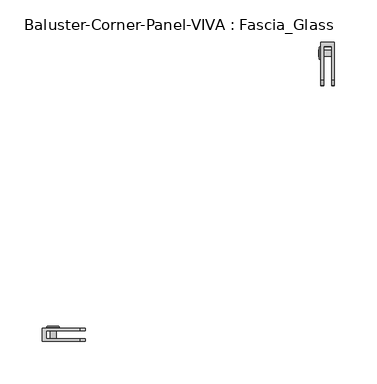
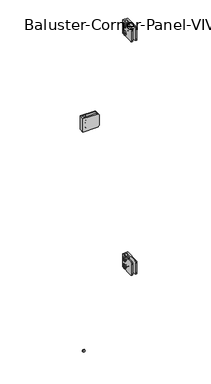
"""IFC4 building model written with IfcOpenShell, lengths in millimetres: railing geometry, Baluster-Corner-Panel-VIVA : Fascia_Glass."""

from ifc_helpers import new_model, si_unit, point, frame, origin, place, context, project, spatial, polyline, circle_curve, ellipse_curve, trimmed, outline, extrude, source, transform, mapped, element, save
from ifc_brep_helpers import plane_surface, cylinder_surface, revolved_surface, advanced_brep


def baluster_corner_panel_viva_fascia_glass_540a4684(model_context):
    return source(origin(), model_context, "Body", "SolidModel", [
        extrude(outline(polyline([(304.2341927, 917.178125), (302.1872286, 913.6326791), (298.0933003, 913.6326791), (296.0463361, 917.178125), (298.0933003, 920.7235709), (302.1872286, 920.7235709), (304.2341927, 917.178125)])), frame((21.7024185, 0.0, 0.0), z_axis=(1.0, 0.0, 0.0), x_axis=(0.0, 1.0, 0.0)), (0.0, 0.0, 1.0), 1.4969696),
        advanced_brep(
        [(36.7665, 303.6857103, 917.178125), (36.7665, 296.5948185, 917.178125), (24.0665, 296.5948185, 917.178125), (24.0665, 303.6857103, 917.178125), (24.0665, 292.7324753, 917.178125), (24.0665, 307.5480535, 917.178125), (23.199388, 301.7963398, 917.178125), (23.199388, 298.484189, 917.178125), (36.7665, 298.484189, 917.178125), (36.7665, 301.7963398, 917.178125), (23.2316551, 307.5480535, 917.178125), (23.2316551, 292.7324753, 917.178125), (21.9503831, 294.0137474, 917.178125), (21.9503831, 306.2667815, 917.178125), (21.9503831, 295.8416689, 917.178125), (21.9503831, 304.43886, 917.178125), (23.199388, 295.8416689, 917.178125), (23.199388, 304.43886, 917.178125)],
        [
            (0, 1, circle_curve(frame((36.7665, 300.1402644, 917.178125), z_axis=(-1.0, 0.0, 0.0), x_axis=(0.0, -1.0, 0.0)), 3.5454459)),
            (1, 2),
            (2, 3, circle_curve(frame((24.0665, 300.1402644, 917.178125), z_axis=(1.0, 0.0, 0.0), x_axis=(0.0, -1.0, 0.0)), 3.5454459)),
            (3, 0),
            (1, 0, circle_curve(frame((36.7665, 300.1402644, 917.178125), z_axis=(-1.0, 0.0, 0.0), x_axis=(0.0, -1.0, 0.0)), 3.5454459)),
            (3, 2, circle_curve(frame((24.0665, 300.1402644, 917.178125), z_axis=(1.0, 0.0, 0.0), x_axis=(0.0, -1.0, 0.0)), 3.5454459)),
            (2, 4),
            (4, 5, circle_curve(frame((24.0665, 300.1402644, 917.178125), z_axis=(1.0, 0.0, 0.0), x_axis=(0.0, -1.0, 0.0)), 7.4077891)),
            (5, 3),
            (5, 4, circle_curve(frame((24.0665, 300.1402644, 917.178125), z_axis=(1.0, 0.0, 0.0), x_axis=(0.0, -1.0, 0.0)), 7.4077891)),
            (6, 7, circle_curve(frame((23.199388, 300.1402644, 917.178125), z_axis=(-1.0, 0.0, 0.0), x_axis=(0.0, -1.0, 0.0)), 1.6560754)),
            (7, 8),
            (8, 9, circle_curve(frame((36.7665, 300.1402644, 917.178125), z_axis=(1.0, 0.0, 0.0), x_axis=(0.0, -1.0, 0.0)), 1.6560754)),
            (9, 6),
            (7, 6, circle_curve(frame((23.199388, 300.1402644, 917.178125), z_axis=(-1.0, 0.0, 0.0), x_axis=(0.0, -1.0, 0.0)), 1.6560754)),
            (9, 8, circle_curve(frame((36.7665, 300.1402644, 917.178125), z_axis=(1.0, 0.0, 0.0), x_axis=(0.0, -1.0, 0.0)), 1.6560754)),
            (10, 11, circle_curve(frame((23.2316551, 300.1402644, 917.178125), z_axis=(-1.0, 0.0, 0.0), x_axis=(0.0, -1.0, 0.0)), 7.4077891)),
            (11, 12, circle_curve(frame((23.2316551, 294.0137474, 917.178125), z_axis=(0.0, 0.0, -1.0), x_axis=(0.0, -1.0, 0.0)), 1.281272)),
            (12, 13, circle_curve(frame((21.9503831, 300.1402644, 917.178125), z_axis=(1.0, 0.0, 0.0), x_axis=(0.0, -1.0, 0.0)), 6.1265171)),
            (13, 10, circle_curve(frame((23.2316551, 306.2667815, 917.178125), z_axis=(0.0, 0.0, -1.0), x_axis=(0.0, 1.0, 0.0)), 1.281272)),
            (11, 10, circle_curve(frame((23.2316551, 300.1402644, 917.178125), z_axis=(-1.0, 0.0, 0.0), x_axis=(0.0, -1.0, 0.0)), 7.4077891)),
            (13, 12, circle_curve(frame((21.9503831, 300.1402644, 917.178125), z_axis=(1.0, 0.0, 0.0), x_axis=(0.0, -1.0, 0.0)), 6.1265171)),
            (12, 14),
            (14, 15, circle_curve(frame((21.9503831, 300.1402644, 917.178125), z_axis=(1.0, 0.0, 0.0), x_axis=(0.0, -1.0, 0.0)), 4.2985955)),
            (15, 13),
            (15, 14, circle_curve(frame((21.9503831, 300.1402644, 917.178125), z_axis=(1.0, 0.0, 0.0), x_axis=(0.0, -1.0, 0.0)), 4.2985955)),
            (4, 11),
            (10, 5),
            (8, 1),
            (0, 9),
            (14, 16),
            (16, 17, circle_curve(frame((23.199388, 300.1402644, 917.178125), z_axis=(1.0, 0.0, 0.0), x_axis=(0.0, -1.0, 0.0)), 4.2985955)),
            (17, 15),
            (17, 16, circle_curve(frame((23.199388, 300.1402644, 917.178125), z_axis=(1.0, 0.0, 0.0), x_axis=(0.0, -1.0, 0.0)), 4.2985955)),
            (16, 7),
            (6, 17),
        ],
        [
            cylinder_surface(frame((27.5632331, 300.1402644, 917.178125), z_axis=(1.0, 0.0, 0.0), x_axis=(0.0, -1.0, 0.0)), 3.5454459),
            plane_surface(frame((24.0665, 300.1402644, 917.178125), z_axis=(1.0, 0.0, 0.0), x_axis=(0.0, -1.0, 0.0))),
            revolved_surface(polyline([(36.7665, 298.48418899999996, 917.178125), (23.199388, 298.48418899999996, 917.178125)]), (27.5632331, 300.1402644, 917.178125), (1.0, 0.0, 0.0)),
            revolved_surface(trimmed(ellipse_curve(frame((23.2316551, 294.0137474, 917.178125), z_axis=(0.0, 0.0, 1.0), x_axis=(0.0, -1.0, 0.0)), 1.281272, 1.281272), [point((21.9503831, 294.0137474, 917.178125))], [point((23.2316551, 292.7324753, 917.178125))], True, "CARTESIAN"), (27.5632331, 300.1402644, 917.178125), (1.0, 0.0, 0.0)),
            plane_surface(frame((21.9503831, 300.1402644, 917.178125), z_axis=(-1.0, 0.0, 0.0), x_axis=(0.0, -1.0, 0.0))),
            cylinder_surface(frame((27.5632331, 300.1402644, 917.178125), z_axis=(1.0, 0.0, 0.0), x_axis=(0.0, -1.0, 0.0)), 7.4077891),
            plane_surface(frame((36.7665, 300.1402644, 917.178125), z_axis=(1.0, 0.0, 0.0), x_axis=(0.0, -1.0, 0.0))),
            revolved_surface(polyline([(23.199388, 295.8416689, 917.178125), (21.9503831, 295.8416689, 917.178125)]), (27.5632331, 300.1402644, 917.178125), (1.0, 0.0, 0.0)),
            plane_surface(frame((23.199388, 300.1402644, 917.178125), z_axis=(-1.0, 0.0, 0.0), x_axis=(0.0, -1.0, 0.0))),
        ],
        [
            (0, [[1, 2, 3, 4]]),
            (0, [[5, -4, 6, -2]]),
            (1, [[-3, 7, 8, 9]]),
            (1, [[-6, -9, 10, -7]]),
            (2, [[11, 12, 13, 14]]),
            (2, [[15, -14, 16, -12]]),
            (3, [[17, 18, 19, 20]]),
            (3, [[21, -20, 22, -18]]),
            (4, [[-19, 23, 24, 25]]),
            (4, [[-22, -25, 26, -23]]),
            (5, [[-8, 27, -17, 28]]),
            (5, [[-10, -28, -21, -27]]),
            (6, [[-13, 29, -1, 30]]),
            (6, [[-16, -30, -5, -29]]),
            (7, [[-24, 31, 32, 33]]),
            (7, [[-26, -33, 34, -31]]),
            (8, [[-32, 35, -11, 36]]),
            (8, [[-34, -36, -15, -35]]),
        ],
    ),
        advanced_brep(
        [(36.7665, 303.6857103, 892.571875), (36.7665, 296.5948185, 892.571875), (24.0665, 296.5948185, 892.571875), (24.0665, 303.6857103, 892.571875), (24.0665, 292.7324753, 892.571875), (24.0665, 307.5480535, 892.571875), (23.199388, 301.7963398, 892.571875), (23.199388, 298.484189, 892.571875), (36.7665, 298.484189, 892.571875), (36.7665, 301.7963398, 892.571875), (23.2316551, 307.5480535, 892.571875), (23.2316551, 292.7324753, 892.571875), (21.9503831, 294.0137474, 892.571875), (21.9503831, 306.2667815, 892.571875), (21.9503831, 295.8416689, 892.571875), (21.9503831, 304.43886, 892.571875), (23.199388, 295.8416689, 892.571875), (23.199388, 304.43886, 892.571875)],
        [
            (0, 1, circle_curve(frame((36.7665, 300.1402644, 892.571875), z_axis=(-1.0, 0.0, 0.0), x_axis=(0.0, -1.0, 0.0)), 3.5454459)),
            (1, 2),
            (2, 3, circle_curve(frame((24.0665, 300.1402644, 892.571875), z_axis=(1.0, 0.0, 0.0), x_axis=(0.0, -1.0, 0.0)), 3.5454459)),
            (3, 0),
            (1, 0, circle_curve(frame((36.7665, 300.1402644, 892.571875), z_axis=(-1.0, 0.0, 0.0), x_axis=(0.0, -1.0, 0.0)), 3.5454459)),
            (3, 2, circle_curve(frame((24.0665, 300.1402644, 892.571875), z_axis=(1.0, 0.0, 0.0), x_axis=(0.0, -1.0, 0.0)), 3.5454459)),
            (2, 4),
            (4, 5, circle_curve(frame((24.0665, 300.1402644, 892.571875), z_axis=(1.0, 0.0, 0.0), x_axis=(0.0, -1.0, 0.0)), 7.4077891)),
            (5, 3),
            (5, 4, circle_curve(frame((24.0665, 300.1402644, 892.571875), z_axis=(1.0, 0.0, 0.0), x_axis=(0.0, -1.0, 0.0)), 7.4077891)),
            (6, 7, circle_curve(frame((23.199388, 300.1402644, 892.571875), z_axis=(-1.0, 0.0, 0.0), x_axis=(0.0, -1.0, 0.0)), 1.6560754)),
            (7, 8),
            (8, 9, circle_curve(frame((36.7665, 300.1402644, 892.571875), z_axis=(1.0, 0.0, 0.0), x_axis=(0.0, -1.0, 0.0)), 1.6560754)),
            (9, 6),
            (7, 6, circle_curve(frame((23.199388, 300.1402644, 892.571875), z_axis=(-1.0, 0.0, 0.0), x_axis=(0.0, -1.0, 0.0)), 1.6560754)),
            (9, 8, circle_curve(frame((36.7665, 300.1402644, 892.571875), z_axis=(1.0, 0.0, 0.0), x_axis=(0.0, -1.0, 0.0)), 1.6560754)),
            (10, 11, circle_curve(frame((23.2316551, 300.1402644, 892.571875), z_axis=(-1.0, 0.0, 0.0), x_axis=(0.0, -1.0, 0.0)), 7.4077891)),
            (11, 12, circle_curve(frame((23.2316551, 294.0137474, 892.571875), z_axis=(0.0, 0.0, -1.0), x_axis=(0.0, -1.0, 0.0)), 1.281272)),
            (12, 13, circle_curve(frame((21.9503831, 300.1402644, 892.571875), z_axis=(1.0, 0.0, 0.0), x_axis=(0.0, -1.0, 0.0)), 6.1265171)),
            (13, 10, circle_curve(frame((23.2316551, 306.2667815, 892.571875), z_axis=(0.0, 0.0, -1.0), x_axis=(0.0, 1.0, 0.0)), 1.281272)),
            (11, 10, circle_curve(frame((23.2316551, 300.1402644, 892.571875), z_axis=(-1.0, 0.0, 0.0), x_axis=(0.0, -1.0, 0.0)), 7.4077891)),
            (13, 12, circle_curve(frame((21.9503831, 300.1402644, 892.571875), z_axis=(1.0, 0.0, 0.0), x_axis=(0.0, -1.0, 0.0)), 6.1265171)),
            (12, 14),
            (14, 15, circle_curve(frame((21.9503831, 300.1402644, 892.571875), z_axis=(1.0, 0.0, 0.0), x_axis=(0.0, -1.0, 0.0)), 4.2985955)),
            (15, 13),
            (15, 14, circle_curve(frame((21.9503831, 300.1402644, 892.571875), z_axis=(1.0, 0.0, 0.0), x_axis=(0.0, -1.0, 0.0)), 4.2985955)),
            (8, 1),
            (0, 9),
            (4, 11),
            (10, 5),
            (14, 16),
            (16, 17, circle_curve(frame((23.199388, 300.1402644, 892.571875), z_axis=(1.0, 0.0, 0.0), x_axis=(0.0, -1.0, 0.0)), 4.2985955)),
            (17, 15),
            (17, 16, circle_curve(frame((23.199388, 300.1402644, 892.571875), z_axis=(1.0, 0.0, 0.0), x_axis=(0.0, -1.0, 0.0)), 4.2985955)),
            (16, 7),
            (6, 17),
        ],
        [
            cylinder_surface(frame((27.5632331, 300.1402644, 892.571875), z_axis=(1.0, 0.0, 0.0), x_axis=(0.0, -1.0, 0.0)), 3.5454459),
            plane_surface(frame((24.0665, 300.1402644, 892.571875), z_axis=(1.0, 0.0, 0.0), x_axis=(0.0, -1.0, 0.0))),
            revolved_surface(polyline([(36.7665, 298.48418899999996, 892.571875), (23.199388, 298.48418899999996, 892.571875)]), (27.5632331, 300.1402644, 892.571875), (1.0, 0.0, 0.0)),
            revolved_surface(trimmed(ellipse_curve(frame((23.2316551, 294.0137474, 892.571875), z_axis=(0.0, 0.0, 1.0), x_axis=(0.0, -1.0, 0.0)), 1.281272, 1.281272), [point((21.9503831, 294.0137474, 892.571875))], [point((23.2316551, 292.7324753, 892.571875))], True, "CARTESIAN"), (27.5632331, 300.1402644, 892.571875), (1.0, 0.0, 0.0)),
            plane_surface(frame((21.9503831, 300.1402644, 892.571875), z_axis=(-1.0, 0.0, 0.0), x_axis=(0.0, -1.0, 0.0))),
            plane_surface(frame((36.7665, 300.1402644, 892.571875), z_axis=(1.0, 0.0, 0.0), x_axis=(0.0, -1.0, 0.0))),
            cylinder_surface(frame((27.5632331, 300.1402644, 892.571875), z_axis=(1.0, 0.0, 0.0), x_axis=(0.0, -1.0, 0.0)), 7.4077891),
            revolved_surface(polyline([(23.199388, 295.8416689, 892.571875), (21.9503831, 295.8416689, 892.571875)]), (27.5632331, 300.1402644, 892.571875), (1.0, 0.0, 0.0)),
            plane_surface(frame((23.199388, 300.1402644, 892.571875), z_axis=(-1.0, 0.0, 0.0), x_axis=(0.0, -1.0, 0.0))),
        ],
        [
            (0, [[1, 2, 3, 4]]),
            (0, [[5, -4, 6, -2]]),
            (1, [[-3, 7, 8, 9]]),
            (1, [[-6, -9, 10, -7]]),
            (2, [[11, 12, 13, 14]]),
            (2, [[15, -14, 16, -12]]),
            (3, [[17, 18, 19, 20]]),
            (3, [[21, -20, 22, -18]]),
            (4, [[-19, 23, 24, 25]]),
            (4, [[-22, -25, 26, -23]]),
            (5, [[-13, 27, -1, 28]]),
            (5, [[-16, -28, -5, -27]]),
            (6, [[-8, 29, -17, 30]]),
            (6, [[-10, -30, -21, -29]]),
            (7, [[-24, 31, 32, 33]]),
            (7, [[-26, -33, 34, -31]]),
            (8, [[-32, 35, -11, 36]]),
            (8, [[-34, -36, -15, -35]]),
        ],
    ),
        extrude(outline(polyline([(304.2341927, 892.571875), (302.1872286, 889.0264291), (298.0933003, 889.0264291), (296.0463361, 892.571875), (298.0933003, 896.1173209), (302.1872286, 896.1173209), (304.2341927, 892.571875)])), frame((21.7024185, 0.0, 0.0), z_axis=(1.0, 0.0, 0.0), x_axis=(0.0, 1.0, 0.0)), (0.0, 0.0, 1.0), 1.4969696),
        advanced_brep(
        [(24.0665, 312.7736092, 927.1), (24.0665, 312.7736092, 882.65), (24.0665, 268.3236092, 882.65), (24.0665, 261.9736092, 889.0), (24.0665, 261.9736092, 920.75), (24.0665, 268.3236092, 927.1), (39.9415, 312.7736092, 927.1), (39.9415, 268.3236092, 927.1), (39.9415, 261.9736092, 920.75), (39.9415, 261.9736092, 889.0), (39.9415, 268.3236092, 882.65), (39.9415, 312.7736092, 882.65), (36.7665, 268.3236092, 882.65), (36.7665, 308.0555288, 882.65), (27.2415, 308.0555288, 882.65), (27.2415, 268.3236092, 882.65), (36.7665, 308.0555288, 927.1), (27.2415, 308.0555288, 927.1), (27.2415, 268.3236092, 927.1), (27.2415, 261.9736092, 920.75), (27.2415, 261.9736092, 889.0), (36.7665, 261.9736092, 889.0), (36.7665, 261.9736092, 920.75), (36.7665, 268.3236092, 927.1)],
        [
            (0, 1),
            (1, 2),
            (2, 3, circle_curve(frame((24.0665, 268.3236092, 889.0), z_axis=(-1.0, 0.0, 0.0), x_axis=(0.0, -1.0, 0.0)), 6.35)),
            (3, 4),
            (4, 5, circle_curve(frame((24.0665, 268.3236092, 920.75), z_axis=(-1.0, 0.0, 0.0), x_axis=(0.0, -1.0, 0.0)), 6.35)),
            (5, 0),
            (6, 7),
            (7, 8, circle_curve(frame((39.9415, 268.3236092, 920.75), z_axis=(1.0, 0.0, 0.0), x_axis=(0.0, -1.0, 0.0)), 6.35)),
            (8, 9),
            (9, 10, circle_curve(frame((39.9415, 268.3236092, 889.0), z_axis=(1.0, 0.0, 0.0), x_axis=(0.0, -1.0, 0.0)), 6.35)),
            (10, 11),
            (11, 6),
            (0, 6),
            (11, 1),
            (10, 12),
            (12, 13),
            (13, 14),
            (14, 15),
            (15, 2),
            (13, 16),
            (16, 17),
            (17, 14),
            (17, 18),
            (18, 19, circle_curve(frame((27.2415, 268.3236092, 920.75), z_axis=(1.0, 0.0, 0.0), x_axis=(0.0, -1.0, 0.0)), 6.35)),
            (19, 20),
            (20, 15, circle_curve(frame((27.2415, 268.3236092, 889.0), z_axis=(1.0, 0.0, 0.0), x_axis=(0.0, -1.0, 0.0)), 6.35)),
            (12, 21, circle_curve(frame((36.7665, 268.3236092, 889.0), z_axis=(-1.0, 0.0, 0.0), x_axis=(0.0, -1.0, 0.0)), 6.35)),
            (21, 22),
            (22, 23, circle_curve(frame((36.7665, 268.3236092, 920.75), z_axis=(-1.0, 0.0, 0.0), x_axis=(0.0, -1.0, 0.0)), 6.35)),
            (23, 16),
            (20, 3),
            (9, 21),
            (19, 4),
            (8, 22),
            (18, 5),
            (7, 23),
        ],
        [
            plane_surface(frame((24.0665, 312.7736092, 882.65), z_axis=(-1.0, 0.0, 0.0), x_axis=(0.0, 0.0, -1.0))),
            plane_surface(frame((39.9415, 312.7736092, 882.65), z_axis=(1.0, 0.0, 0.0), x_axis=(0.0, 0.0, 1.0))),
            plane_surface(frame((24.0665, 312.7736092, 927.1), z_axis=(0.0, 1.0, 0.0), x_axis=(1.0, 0.0, 0.0))),
            plane_surface(frame((24.0665, 312.7736092, 882.65), z_axis=(0.0, 0.0, -1.0), x_axis=(1.0, 0.0, 0.0))),
            plane_surface(frame((36.7665, 308.0555288, 939.8), z_axis=(0.0, -1.0, 0.0), x_axis=(0.0, 0.0, -1.0))),
            plane_surface(frame((27.2415, 308.0555288, 939.8), z_axis=(1.0, 0.0, 0.0), x_axis=(0.0, 0.0, -1.0))),
            plane_surface(frame((36.7665, 249.2736092, 939.8), z_axis=(-1.0, 0.0, 0.0), x_axis=(0.0, 0.0, -1.0))),
            cylinder_surface(frame((39.9415, 268.3236092, 889.0), z_axis=(-1.0, 0.0, 0.0), x_axis=(0.0, -1.0, 0.0)), 6.35),
            plane_surface(frame((24.0665, 261.9736092, 889.0), z_axis=(0.0, -1.0, 0.0), x_axis=(1.0, 0.0, 0.0))),
            cylinder_surface(frame((39.9415, 268.3236092, 920.75), z_axis=(-1.0, 0.0, 0.0), x_axis=(0.0, -1.0, 0.0)), 6.35),
            plane_surface(frame((24.0665, 268.3236092, 927.1), z_axis=(0.0, 0.0, 1.0), x_axis=(1.0, 0.0, 0.0))),
        ],
        [
            (0, [[1, 2, 3, 4, 5, 6]]),
            (1, [[7, 8, 9, 10, 11, 12]]),
            (2, [[-1, 13, -12, 14]]),
            (3, [[-2, -14, -11, 15, 16, 17, 18, 19]]),
            (4, [[20, 21, 22, -17]]),
            (5, [[-22, 23, 24, 25, 26, -18]]),
            (6, [[-20, -16, 27, 28, 29, 30]]),
            (7, [[-3, -19, -26, 31]]),
            (7, [[-10, 32, -27, -15]]),
            (8, [[-4, -31, -25, 33]]),
            (8, [[-9, 34, -28, -32]]),
            (9, [[-5, -33, -24, 35]]),
            (9, [[-8, 36, -29, -34]]),
            (10, [[-6, -35, -23, -21, -30, -36, -7, -13]]),
        ],
    ),
        extrude(outline(polyline([(304.2341927, 138.7358896), (302.1872286, 135.1904437), (298.0933003, 135.1904437), (296.0463361, 138.7358896), (298.0933003, 142.2813355), (302.1872286, 142.2813355), (304.2341927, 138.7358896)])), frame((21.7024185, 0.0, 0.0), z_axis=(1.0, 0.0, 0.0), x_axis=(0.0, 1.0, 0.0)), (0.0, 0.0, 1.0), 1.4969696),
        advanced_brep(
        [(36.7665, 303.6857103, 138.7358896), (36.7665, 296.5948185, 138.7358896), (24.0665, 296.5948185, 138.7358896), (24.0665, 303.6857103, 138.7358896), (24.0665, 292.7324753, 138.7358896), (24.0665, 307.5480535, 138.7358896), (23.199388, 301.7963398, 138.7358896), (23.199388, 298.484189, 138.7358896), (36.7665, 298.484189, 138.7358896), (36.7665, 301.7963398, 138.7358896), (23.2316551, 307.5480535, 138.7358896), (23.2316551, 292.7324753, 138.7358896), (21.9503831, 294.0137474, 138.7358896), (21.9503831, 306.2667815, 138.7358896), (21.9503831, 295.8416689, 138.7358896), (21.9503831, 304.43886, 138.7358896), (23.199388, 295.8416689, 138.7358896), (23.199388, 304.43886, 138.7358896)],
        [
            (0, 1, circle_curve(frame((36.7665, 300.1402644, 138.7358896), z_axis=(-1.0, 0.0, 0.0), x_axis=(0.0, -1.0, 0.0)), 3.5454459)),
            (1, 2),
            (2, 3, circle_curve(frame((24.0665, 300.1402644, 138.7358896), z_axis=(1.0, 0.0, 0.0), x_axis=(0.0, -1.0, 0.0)), 3.5454459)),
            (3, 0),
            (1, 0, circle_curve(frame((36.7665, 300.1402644, 138.7358896), z_axis=(-1.0, 0.0, 0.0), x_axis=(0.0, -1.0, 0.0)), 3.5454459)),
            (3, 2, circle_curve(frame((24.0665, 300.1402644, 138.7358896), z_axis=(1.0, 0.0, 0.0), x_axis=(0.0, -1.0, 0.0)), 3.5454459)),
            (2, 4),
            (4, 5, circle_curve(frame((24.0665, 300.1402644, 138.7358896), z_axis=(1.0, 0.0, 0.0), x_axis=(0.0, -1.0, 0.0)), 7.4077891)),
            (5, 3),
            (5, 4, circle_curve(frame((24.0665, 300.1402644, 138.7358896), z_axis=(1.0, 0.0, 0.0), x_axis=(0.0, -1.0, 0.0)), 7.4077891)),
            (6, 7, circle_curve(frame((23.199388, 300.1402644, 138.7358896), z_axis=(-1.0, 0.0, 0.0), x_axis=(0.0, -1.0, 0.0)), 1.6560754)),
            (7, 8),
            (8, 9, circle_curve(frame((36.7665, 300.1402644, 138.7358896), z_axis=(1.0, 0.0, 0.0), x_axis=(0.0, -1.0, 0.0)), 1.6560754)),
            (9, 6),
            (7, 6, circle_curve(frame((23.199388, 300.1402644, 138.7358896), z_axis=(-1.0, 0.0, 0.0), x_axis=(0.0, -1.0, 0.0)), 1.6560754)),
            (9, 8, circle_curve(frame((36.7665, 300.1402644, 138.7358896), z_axis=(1.0, 0.0, 0.0), x_axis=(0.0, -1.0, 0.0)), 1.6560754)),
            (10, 11, circle_curve(frame((23.2316551, 300.1402644, 138.7358896), z_axis=(-1.0, 0.0, 0.0), x_axis=(0.0, -1.0, 0.0)), 7.4077891)),
            (11, 12, circle_curve(frame((23.2316551, 294.0137474, 138.7358896), z_axis=(0.0, 0.0, -1.0), x_axis=(0.0, -1.0, 0.0)), 1.281272)),
            (12, 13, circle_curve(frame((21.9503831, 300.1402644, 138.7358896), z_axis=(1.0, 0.0, 0.0), x_axis=(0.0, -1.0, 0.0)), 6.1265171)),
            (13, 10, circle_curve(frame((23.2316551, 306.2667815, 138.7358896), z_axis=(0.0, 0.0, -1.0), x_axis=(0.0, 1.0, 0.0)), 1.281272)),
            (11, 10, circle_curve(frame((23.2316551, 300.1402644, 138.7358896), z_axis=(-1.0, 0.0, 0.0), x_axis=(0.0, -1.0, 0.0)), 7.4077891)),
            (13, 12, circle_curve(frame((21.9503831, 300.1402644, 138.7358896), z_axis=(1.0, 0.0, 0.0), x_axis=(0.0, -1.0, 0.0)), 6.1265171)),
            (12, 14),
            (14, 15, circle_curve(frame((21.9503831, 300.1402644, 138.7358896), z_axis=(1.0, 0.0, 0.0), x_axis=(0.0, -1.0, 0.0)), 4.2985955)),
            (15, 13),
            (15, 14, circle_curve(frame((21.9503831, 300.1402644, 138.7358896), z_axis=(1.0, 0.0, 0.0), x_axis=(0.0, -1.0, 0.0)), 4.2985955)),
            (4, 11),
            (10, 5),
            (8, 1),
            (0, 9),
            (14, 16),
            (16, 17, circle_curve(frame((23.199388, 300.1402644, 138.7358896), z_axis=(1.0, 0.0, 0.0), x_axis=(0.0, -1.0, 0.0)), 4.2985955)),
            (17, 15),
            (17, 16, circle_curve(frame((23.199388, 300.1402644, 138.7358896), z_axis=(1.0, 0.0, 0.0), x_axis=(0.0, -1.0, 0.0)), 4.2985955)),
            (16, 7),
            (6, 17),
        ],
        [
            cylinder_surface(frame((27.5632331, 300.1402644, 138.7358896), z_axis=(1.0, 0.0, 0.0), x_axis=(0.0, -1.0, 0.0)), 3.5454459),
            plane_surface(frame((24.0665, 300.1402644, 138.7358896), z_axis=(1.0, 0.0, 0.0), x_axis=(0.0, -1.0, 0.0))),
            revolved_surface(polyline([(36.7665, 298.48418899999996, 138.7358896), (23.199388, 298.48418899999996, 138.7358896)]), (27.5632331, 300.1402644, 138.7358896), (1.0, 0.0, 0.0)),
            revolved_surface(trimmed(ellipse_curve(frame((23.2316551, 294.0137474, 138.7358896), z_axis=(0.0, 0.0, 1.0), x_axis=(0.0, -1.0, 0.0)), 1.281272, 1.281272), [point((21.9503831, 294.0137474, 138.7358896))], [point((23.2316551, 292.7324753, 138.7358896))], True, "CARTESIAN"), (27.5632331, 300.1402644, 138.7358896), (1.0, 0.0, 0.0)),
            plane_surface(frame((21.9503831, 300.1402644, 138.7358896), z_axis=(-1.0, 0.0, 0.0), x_axis=(0.0, -1.0, 0.0))),
            cylinder_surface(frame((27.5632331, 300.1402644, 138.7358896), z_axis=(1.0, 0.0, 0.0), x_axis=(0.0, -1.0, 0.0)), 7.4077891),
            plane_surface(frame((36.7665, 300.1402644, 138.7358896), z_axis=(1.0, 0.0, 0.0), x_axis=(0.0, -1.0, 0.0))),
            revolved_surface(polyline([(23.199388, 295.8416689, 138.7358896), (21.9503831, 295.8416689, 138.7358896)]), (27.5632331, 300.1402644, 138.7358896), (1.0, 0.0, 0.0)),
            plane_surface(frame((23.199388, 300.1402644, 138.7358896), z_axis=(-1.0, 0.0, 0.0), x_axis=(0.0, -1.0, 0.0))),
        ],
        [
            (0, [[1, 2, 3, 4]]),
            (0, [[5, -4, 6, -2]]),
            (1, [[-3, 7, 8, 9]]),
            (1, [[-6, -9, 10, -7]]),
            (2, [[11, 12, 13, 14]]),
            (2, [[15, -14, 16, -12]]),
            (3, [[17, 18, 19, 20]]),
            (3, [[21, -20, 22, -18]]),
            (4, [[-19, 23, 24, 25]]),
            (4, [[-22, -25, 26, -23]]),
            (5, [[-8, 27, -17, 28]]),
            (5, [[-10, -28, -21, -27]]),
            (6, [[-13, 29, -1, 30]]),
            (6, [[-16, -30, -5, -29]]),
            (7, [[-24, 31, 32, 33]]),
            (7, [[-26, -33, 34, -31]]),
            (8, [[-32, 35, -11, 36]]),
            (8, [[-34, -36, -15, -35]]),
        ],
    ),
        advanced_brep(
        [(36.7665, 303.6857103, 114.1296396), (36.7665, 296.5948185, 114.1296396), (24.0665, 296.5948185, 114.1296396), (24.0665, 303.6857103, 114.1296396), (24.0665, 292.7324753, 114.1296396), (24.0665, 307.5480535, 114.1296396), (23.199388, 301.7963398, 114.1296396), (23.199388, 298.484189, 114.1296396), (36.7665, 298.484189, 114.1296396), (36.7665, 301.7963398, 114.1296396), (23.2316551, 307.5480535, 114.1296396), (23.2316551, 292.7324753, 114.1296396), (21.9503831, 294.0137474, 114.1296396), (21.9503831, 306.2667815, 114.1296396), (21.9503831, 295.8416689, 114.1296396), (21.9503831, 304.43886, 114.1296396), (23.199388, 295.8416689, 114.1296396), (23.199388, 304.43886, 114.1296396)],
        [
            (0, 1, circle_curve(frame((36.7665, 300.1402644, 114.1296396), z_axis=(-1.0, 0.0, 0.0), x_axis=(0.0, -1.0, 0.0)), 3.5454459)),
            (1, 2),
            (2, 3, circle_curve(frame((24.0665, 300.1402644, 114.1296396), z_axis=(1.0, 0.0, 0.0), x_axis=(0.0, -1.0, 0.0)), 3.5454459)),
            (3, 0),
            (1, 0, circle_curve(frame((36.7665, 300.1402644, 114.1296396), z_axis=(-1.0, 0.0, 0.0), x_axis=(0.0, -1.0, 0.0)), 3.5454459)),
            (3, 2, circle_curve(frame((24.0665, 300.1402644, 114.1296396), z_axis=(1.0, 0.0, 0.0), x_axis=(0.0, -1.0, 0.0)), 3.5454459)),
            (2, 4),
            (4, 5, circle_curve(frame((24.0665, 300.1402644, 114.1296396), z_axis=(1.0, 0.0, 0.0), x_axis=(0.0, -1.0, 0.0)), 7.4077891)),
            (5, 3),
            (5, 4, circle_curve(frame((24.0665, 300.1402644, 114.1296396), z_axis=(1.0, 0.0, 0.0), x_axis=(0.0, -1.0, 0.0)), 7.4077891)),
            (6, 7, circle_curve(frame((23.199388, 300.1402644, 114.1296396), z_axis=(-1.0, 0.0, 0.0), x_axis=(0.0, -1.0, 0.0)), 1.6560754)),
            (7, 8),
            (8, 9, circle_curve(frame((36.7665, 300.1402644, 114.1296396), z_axis=(1.0, 0.0, 0.0), x_axis=(0.0, -1.0, 0.0)), 1.6560754)),
            (9, 6),
            (7, 6, circle_curve(frame((23.199388, 300.1402644, 114.1296396), z_axis=(-1.0, 0.0, 0.0), x_axis=(0.0, -1.0, 0.0)), 1.6560754)),
            (9, 8, circle_curve(frame((36.7665, 300.1402644, 114.1296396), z_axis=(1.0, 0.0, 0.0), x_axis=(0.0, -1.0, 0.0)), 1.6560754)),
            (10, 11, circle_curve(frame((23.2316551, 300.1402644, 114.1296396), z_axis=(-1.0, 0.0, 0.0), x_axis=(0.0, -1.0, 0.0)), 7.4077891)),
            (11, 12, circle_curve(frame((23.2316551, 294.0137474, 114.1296396), z_axis=(0.0, 0.0, -1.0), x_axis=(0.0, -1.0, 0.0)), 1.281272)),
            (12, 13, circle_curve(frame((21.9503831, 300.1402644, 114.1296396), z_axis=(1.0, 0.0, 0.0), x_axis=(0.0, -1.0, 0.0)), 6.1265171)),
            (13, 10, circle_curve(frame((23.2316551, 306.2667815, 114.1296396), z_axis=(0.0, 0.0, -1.0), x_axis=(0.0, 1.0, 0.0)), 1.281272)),
            (11, 10, circle_curve(frame((23.2316551, 300.1402644, 114.1296396), z_axis=(-1.0, 0.0, 0.0), x_axis=(0.0, -1.0, 0.0)), 7.4077891)),
            (13, 12, circle_curve(frame((21.9503831, 300.1402644, 114.1296396), z_axis=(1.0, 0.0, 0.0), x_axis=(0.0, -1.0, 0.0)), 6.1265171)),
            (12, 14),
            (14, 15, circle_curve(frame((21.9503831, 300.1402644, 114.1296396), z_axis=(1.0, 0.0, 0.0), x_axis=(0.0, -1.0, 0.0)), 4.2985955)),
            (15, 13),
            (15, 14, circle_curve(frame((21.9503831, 300.1402644, 114.1296396), z_axis=(1.0, 0.0, 0.0), x_axis=(0.0, -1.0, 0.0)), 4.2985955)),
            (8, 1),
            (0, 9),
            (4, 11),
            (10, 5),
            (14, 16),
            (16, 17, circle_curve(frame((23.199388, 300.1402644, 114.1296396), z_axis=(1.0, 0.0, 0.0), x_axis=(0.0, -1.0, 0.0)), 4.2985955)),
            (17, 15),
            (17, 16, circle_curve(frame((23.199388, 300.1402644, 114.1296396), z_axis=(1.0, 0.0, 0.0), x_axis=(0.0, -1.0, 0.0)), 4.2985955)),
            (16, 7),
            (6, 17),
        ],
        [
            cylinder_surface(frame((27.5632331, 300.1402644, 114.1296396), z_axis=(1.0, 0.0, 0.0), x_axis=(0.0, -1.0, 0.0)), 3.5454459),
            plane_surface(frame((24.0665, 300.1402644, 114.1296396), z_axis=(1.0, 0.0, 0.0), x_axis=(0.0, -1.0, 0.0))),
            revolved_surface(polyline([(36.7665, 298.48418899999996, 114.1296396), (23.199388, 298.48418899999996, 114.1296396)]), (27.5632331, 300.1402644, 114.1296396), (1.0, 0.0, 0.0)),
            revolved_surface(trimmed(ellipse_curve(frame((23.2316551, 294.0137474, 114.1296396), z_axis=(0.0, 0.0, 1.0), x_axis=(0.0, -1.0, 0.0)), 1.281272, 1.281272), [point((21.9503831, 294.0137474, 114.1296396))], [point((23.2316551, 292.7324753, 114.1296396))], True, "CARTESIAN"), (27.5632331, 300.1402644, 114.1296396), (1.0, 0.0, 0.0)),
            plane_surface(frame((21.9503831, 300.1402644, 114.1296396), z_axis=(-1.0, 0.0, 0.0), x_axis=(0.0, -1.0, 0.0))),
            plane_surface(frame((36.7665, 300.1402644, 114.1296396), z_axis=(1.0, 0.0, 0.0), x_axis=(0.0, -1.0, 0.0))),
            cylinder_surface(frame((27.5632331, 300.1402644, 114.1296396), z_axis=(1.0, 0.0, 0.0), x_axis=(0.0, -1.0, 0.0)), 7.4077891),
            revolved_surface(polyline([(23.199388, 295.8416689, 114.1296396), (21.9503831, 295.8416689, 114.1296396)]), (27.5632331, 300.1402644, 114.1296396), (1.0, 0.0, 0.0)),
            plane_surface(frame((23.199388, 300.1402644, 114.1296396), z_axis=(-1.0, 0.0, 0.0), x_axis=(0.0, -1.0, 0.0))),
        ],
        [
            (0, [[1, 2, 3, 4]]),
            (0, [[5, -4, 6, -2]]),
            (1, [[-3, 7, 8, 9]]),
            (1, [[-6, -9, 10, -7]]),
            (2, [[11, 12, 13, 14]]),
            (2, [[15, -14, 16, -12]]),
            (3, [[17, 18, 19, 20]]),
            (3, [[21, -20, 22, -18]]),
            (4, [[-19, 23, 24, 25]]),
            (4, [[-22, -25, 26, -23]]),
            (5, [[-13, 27, -1, 28]]),
            (5, [[-16, -28, -5, -27]]),
            (6, [[-8, 29, -17, 30]]),
            (6, [[-10, -30, -21, -29]]),
            (7, [[-24, 31, 32, 33]]),
            (7, [[-26, -33, 34, -31]]),
            (8, [[-32, 35, -11, 36]]),
            (8, [[-34, -36, -15, -35]]),
        ],
    ),
        extrude(outline(polyline([(304.2341927, 114.1296396), (302.1872286, 110.5841937), (298.0933003, 110.5841937), (296.0463361, 114.1296396), (298.0933003, 117.6750855), (302.1872286, 117.6750855), (304.2341927, 114.1296396)])), frame((21.7024185, 0.0, 0.0), z_axis=(1.0, 0.0, 0.0), x_axis=(0.0, 1.0, 0.0)), (0.0, 0.0, 1.0), 1.4969696),
        advanced_brep(
        [(24.0665, 312.7736092, 148.6577646), (24.0665, 312.7736092, 104.2077646), (24.0665, 268.3236092, 104.2077646), (24.0665, 261.9736092, 110.5577646), (24.0665, 261.9736092, 142.3077646), (24.0665, 268.3236092, 148.6577646), (39.9415, 312.7736092, 148.6577646), (39.9415, 268.3236092, 148.6577646), (39.9415, 261.9736092, 142.3077646), (39.9415, 261.9736092, 110.5577646), (39.9415, 268.3236092, 104.2077646), (39.9415, 312.7736092, 104.2077646), (36.7665, 268.3236092, 104.2077646), (36.7665, 308.0555288, 104.2077646), (27.2415, 308.0555288, 104.2077646), (27.2415, 268.3236092, 104.2077646), (36.7665, 308.0555288, 148.6577646), (27.2415, 308.0555288, 148.6577646), (27.2415, 268.3236092, 148.6577646), (27.2415, 261.9736092, 142.3077646), (27.2415, 261.9736092, 110.5577646), (36.7665, 261.9736092, 110.5577646), (36.7665, 261.9736092, 142.3077646), (36.7665, 268.3236092, 148.6577646)],
        [
            (0, 1),
            (1, 2),
            (2, 3, circle_curve(frame((24.0665, 268.3236092, 110.5577646), z_axis=(-1.0, 0.0, 0.0), x_axis=(0.0, -1.0, 0.0)), 6.35)),
            (3, 4),
            (4, 5, circle_curve(frame((24.0665, 268.3236092, 142.3077646), z_axis=(-1.0, 0.0, 0.0), x_axis=(0.0, -1.0, 0.0)), 6.35)),
            (5, 0),
            (6, 7),
            (7, 8, circle_curve(frame((39.9415, 268.3236092, 142.3077646), z_axis=(1.0, 0.0, 0.0), x_axis=(0.0, -1.0, 0.0)), 6.35)),
            (8, 9),
            (9, 10, circle_curve(frame((39.9415, 268.3236092, 110.5577646), z_axis=(1.0, 0.0, 0.0), x_axis=(0.0, -1.0, 0.0)), 6.35)),
            (10, 11),
            (11, 6),
            (0, 6),
            (11, 1),
            (10, 12),
            (12, 13),
            (13, 14),
            (14, 15),
            (15, 2),
            (13, 16),
            (16, 17),
            (17, 14),
            (17, 18),
            (18, 19, circle_curve(frame((27.2415, 268.3236092, 142.3077646), z_axis=(1.0, 0.0, 0.0), x_axis=(0.0, -1.0, 0.0)), 6.35)),
            (19, 20),
            (20, 15, circle_curve(frame((27.2415, 268.3236092, 110.5577646), z_axis=(1.0, 0.0, 0.0), x_axis=(0.0, -1.0, 0.0)), 6.35)),
            (12, 21, circle_curve(frame((36.7665, 268.3236092, 110.5577646), z_axis=(-1.0, 0.0, 0.0), x_axis=(0.0, -1.0, 0.0)), 6.35)),
            (21, 22),
            (22, 23, circle_curve(frame((36.7665, 268.3236092, 142.3077646), z_axis=(-1.0, 0.0, 0.0), x_axis=(0.0, -1.0, 0.0)), 6.35)),
            (23, 16),
            (20, 3),
            (9, 21),
            (19, 4),
            (8, 22),
            (18, 5),
            (7, 23),
        ],
        [
            plane_surface(frame((24.0665, 312.7736092, 104.2077646), z_axis=(-1.0, 0.0, 0.0), x_axis=(0.0, 0.0, -1.0))),
            plane_surface(frame((39.9415, 312.7736092, 104.2077646), z_axis=(1.0, 0.0, 0.0), x_axis=(0.0, 0.0, 1.0))),
            plane_surface(frame((24.0665, 312.7736092, 148.6577646), z_axis=(0.0, 1.0, 0.0), x_axis=(1.0, 0.0, 0.0))),
            plane_surface(frame((24.0665, 312.7736092, 104.2077646), z_axis=(0.0, 0.0, -1.0), x_axis=(1.0, 0.0, 0.0))),
            plane_surface(frame((36.7665, 308.0555288, 161.3577646), z_axis=(0.0, -1.0, 0.0), x_axis=(0.0, 0.0, -1.0))),
            plane_surface(frame((27.2415, 308.0555288, 161.3577646), z_axis=(1.0, 0.0, 0.0), x_axis=(0.0, 0.0, -1.0))),
            plane_surface(frame((36.7665, 249.2736092, 161.3577646), z_axis=(-1.0, 0.0, 0.0), x_axis=(0.0, 0.0, -1.0))),
            cylinder_surface(frame((39.9415, 268.3236092, 110.5577646), z_axis=(-1.0, 0.0, 0.0), x_axis=(0.0, -1.0, 0.0)), 6.35),
            plane_surface(frame((24.0665, 261.9736092, 110.5577646), z_axis=(0.0, -1.0, 0.0), x_axis=(1.0, 0.0, 0.0))),
            cylinder_surface(frame((39.9415, 268.3236092, 142.3077646), z_axis=(-1.0, 0.0, 0.0), x_axis=(0.0, -1.0, 0.0)), 6.35),
            plane_surface(frame((24.0665, 268.3236092, 148.6577646), z_axis=(0.0, 0.0, 1.0), x_axis=(1.0, 0.0, 0.0))),
        ],
        [
            (0, [[1, 2, 3, 4, 5, 6]]),
            (1, [[7, 8, 9, 10, 11, 12]]),
            (2, [[-1, 13, -12, 14]]),
            (3, [[-2, -14, -11, 15, 16, 17, 18, 19]]),
            (4, [[20, 21, 22, -17]]),
            (5, [[-22, 23, 24, 25, 26, -18]]),
            (6, [[-20, -16, 27, 28, 29, 30]]),
            (7, [[-3, -19, -26, 31]]),
            (7, [[-10, 32, -27, -15]]),
            (8, [[-4, -31, -25, 33]]),
            (8, [[-9, 34, -28, -32]]),
            (9, [[-5, -33, -24, 35]]),
            (9, [[-8, 36, -29, -34]]),
            (10, [[-6, -35, -23, -21, -30, -36, -7, -13]]),
        ],
    ),
        extrude(outline(polyline([(917.178125, -295.8746726), (913.6326791, -293.8277085), (913.6326791, -289.7337802), (917.178125, -287.686816), (920.7235709, -289.7337802), (920.7235709, -293.8277085), (917.178125, -295.8746726)])), frame((0.0, -23.199388, 0.0), z_axis=(0.0, 1.0, 0.0), x_axis=(0.0, 0.0, 1.0)), (0.0, 0.0, 1.0), 1.4969696),
        advanced_brep(
        [(-295.3261902, -36.7665, 917.178125), (-295.3261902, -24.0665, 917.178125), (-288.2352984, -24.0665, 917.178125), (-288.2352984, -36.7665, 917.178125), (-299.1885334, -24.0665, 917.178125), (-284.3729552, -24.0665, 917.178125), (-293.4368197, -23.199388, 917.178125), (-293.4368197, -36.7665, 917.178125), (-290.1246689, -36.7665, 917.178125), (-290.1246689, -23.199388, 917.178125), (-299.1885334, -23.2316551, 917.178125), (-297.9072614, -21.9503831, 917.178125), (-285.6542273, -21.9503831, 917.178125), (-284.3729552, -23.2316551, 917.178125), (-296.0793399, -21.9503831, 917.178125), (-287.4821488, -21.9503831, 917.178125), (-296.0793399, -23.199388, 917.178125), (-287.4821488, -23.199388, 917.178125)],
        [
            (0, 1),
            (1, 2, circle_curve(frame((-291.7807443, -24.0665, 917.178125), z_axis=(0.0, -1.0, 0.0), x_axis=(1.0, 0.0, 0.0)), 3.5454459)),
            (2, 3),
            (3, 0, circle_curve(frame((-291.7807443, -36.7665, 917.178125), z_axis=(0.0, 1.0, 0.0), x_axis=(1.0, 0.0, 0.0)), 3.5454459)),
            (2, 1, circle_curve(frame((-291.7807443, -24.0665, 917.178125), z_axis=(0.0, -1.0, 0.0), x_axis=(1.0, 0.0, 0.0)), 3.5454459)),
            (0, 3, circle_curve(frame((-291.7807443, -36.7665, 917.178125), z_axis=(0.0, 1.0, 0.0), x_axis=(1.0, 0.0, 0.0)), 3.5454459)),
            (1, 4),
            (4, 5, circle_curve(frame((-291.7807443, -24.0665, 917.178125), z_axis=(0.0, -1.0, 0.0), x_axis=(1.0, 0.0, 0.0)), 7.4077891)),
            (5, 2),
            (5, 4, circle_curve(frame((-291.7807443, -24.0665, 917.178125), z_axis=(0.0, -1.0, 0.0), x_axis=(1.0, 0.0, 0.0)), 7.4077891)),
            (6, 7),
            (7, 8, circle_curve(frame((-291.7807443, -36.7665, 917.178125), z_axis=(0.0, -1.0, 0.0), x_axis=(1.0, 0.0, 0.0)), 1.6560754)),
            (8, 9),
            (9, 6, circle_curve(frame((-291.7807443, -23.199388, 917.178125), z_axis=(0.0, 1.0, 0.0), x_axis=(1.0, 0.0, 0.0)), 1.6560754)),
            (8, 7, circle_curve(frame((-291.7807443, -36.7665, 917.178125), z_axis=(0.0, -1.0, 0.0), x_axis=(1.0, 0.0, 0.0)), 1.6560754)),
            (6, 9, circle_curve(frame((-291.7807443, -23.199388, 917.178125), z_axis=(0.0, 1.0, 0.0), x_axis=(1.0, 0.0, 0.0)), 1.6560754)),
            (10, 11, circle_curve(frame((-297.9072614, -23.2316551, 917.178125), z_axis=(0.0, 0.0, -1.0), x_axis=(-1.0, 0.0, 0.0)), 1.281272)),
            (11, 12, circle_curve(frame((-291.7807443, -21.9503831, 917.178125), z_axis=(0.0, -1.0, 0.0), x_axis=(1.0, 0.0, 0.0)), 6.1265171)),
            (12, 13, circle_curve(frame((-285.6542273, -23.2316551, 917.178125), z_axis=(0.0, 0.0, -1.0), x_axis=(1.0, 0.0, 0.0)), 1.281272)),
            (13, 10, circle_curve(frame((-291.7807443, -23.2316551, 917.178125), z_axis=(0.0, 1.0, 0.0), x_axis=(1.0, 0.0, 0.0)), 7.4077891)),
            (12, 11, circle_curve(frame((-291.7807443, -21.9503831, 917.178125), z_axis=(0.0, -1.0, 0.0), x_axis=(1.0, 0.0, 0.0)), 6.1265171)),
            (10, 13, circle_curve(frame((-291.7807443, -23.2316551, 917.178125), z_axis=(0.0, 1.0, 0.0), x_axis=(1.0, 0.0, 0.0)), 7.4077891)),
            (11, 14),
            (14, 15, circle_curve(frame((-291.7807443, -21.9503831, 917.178125), z_axis=(0.0, -1.0, 0.0), x_axis=(1.0, 0.0, 0.0)), 4.2985955)),
            (15, 12),
            (15, 14, circle_curve(frame((-291.7807443, -21.9503831, 917.178125), z_axis=(0.0, -1.0, 0.0), x_axis=(1.0, 0.0, 0.0)), 4.2985955)),
            (4, 10),
            (13, 5),
            (7, 0),
            (3, 8),
            (14, 16),
            (16, 17, circle_curve(frame((-291.7807443, -23.199388, 917.178125), z_axis=(0.0, -1.0, 0.0), x_axis=(1.0, 0.0, 0.0)), 4.2985955)),
            (17, 15),
            (17, 16, circle_curve(frame((-291.7807443, -23.199388, 917.178125), z_axis=(0.0, -1.0, 0.0), x_axis=(1.0, 0.0, 0.0)), 4.2985955)),
            (16, 6),
            (9, 17),
        ],
        [
            cylinder_surface(frame((-291.7807443, -27.5632331, 917.178125), z_axis=(0.0, -1.0, 0.0), x_axis=(1.0, 0.0, 0.0)), 3.5454459),
            plane_surface(frame((-291.7807443, -24.0665, 917.178125), z_axis=(0.0, -1.0, 0.0), x_axis=(1.0, 0.0, 0.0))),
            revolved_surface(polyline([(-290.12466889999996, -36.7665, 917.178125), (-290.12466889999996, -23.199388, 917.178125)]), (-291.7807443, -27.5632331, 917.178125), (0.0, -1.0, 0.0)),
            revolved_surface(trimmed(ellipse_curve(frame((-285.6542273, -23.2316551, 917.178125), z_axis=(0.0, 0.0, -1.0), x_axis=(1.0, 0.0, 0.0)), 1.281272, 1.281272), [point((-285.6542273, -21.9503831, 917.178125))], [point((-284.3729552, -23.2316551, 917.178125))], True, "CARTESIAN"), (-291.7807443, -27.5632331, 917.178125), (0.0, -1.0, 0.0)),
            plane_surface(frame((-291.7807443, -21.9503831, 917.178125), z_axis=(0.0, 1.0, 0.0), x_axis=(1.0, 0.0, 0.0))),
            cylinder_surface(frame((-291.7807443, -27.5632331, 917.178125), z_axis=(0.0, -1.0, 0.0), x_axis=(1.0, 0.0, 0.0)), 7.4077891),
            plane_surface(frame((-291.7807443, -36.7665, 917.178125), z_axis=(0.0, -1.0, 0.0), x_axis=(1.0, 0.0, 0.0))),
            revolved_surface(polyline([(-287.4821488, -23.199388, 917.178125), (-287.4821488, -21.9503831, 917.178125)]), (-291.7807443, -27.5632331, 917.178125), (0.0, -1.0, 0.0)),
            plane_surface(frame((-291.7807443, -23.199388, 917.178125), z_axis=(0.0, 1.0, 0.0), x_axis=(1.0, 0.0, 0.0))),
        ],
        [
            (0, [[1, 2, 3, 4]]),
            (0, [[-3, 5, -1, 6]]),
            (1, [[7, 8, 9, -2]]),
            (1, [[-9, 10, -7, -5]]),
            (2, [[11, 12, 13, 14]]),
            (2, [[-13, 15, -11, 16]]),
            (3, [[17, 18, 19, 20]]),
            (3, [[-19, 21, -17, 22]]),
            (4, [[23, 24, 25, -18]]),
            (4, [[-25, 26, -23, -21]]),
            (5, [[27, -20, 28, -8]]),
            (5, [[-28, -22, -27, -10]]),
            (6, [[29, -4, 30, -12]]),
            (6, [[-30, -6, -29, -15]]),
            (7, [[31, 32, 33, -24]]),
            (7, [[-33, 34, -31, -26]]),
            (8, [[35, -14, 36, -32]]),
            (8, [[-36, -16, -35, -34]]),
        ],
    ),
        advanced_brep(
        [(-295.3261902, -36.7665, 892.571875), (-295.3261902, -24.0665, 892.571875), (-288.2352984, -24.0665, 892.571875), (-288.2352984, -36.7665, 892.571875), (-299.1885334, -24.0665, 892.571875), (-284.3729552, -24.0665, 892.571875), (-293.4368197, -23.199388, 892.571875), (-293.4368197, -36.7665, 892.571875), (-290.1246689, -36.7665, 892.571875), (-290.1246689, -23.199388, 892.571875), (-299.1885334, -23.2316551, 892.571875), (-297.9072614, -21.9503831, 892.571875), (-285.6542273, -21.9503831, 892.571875), (-284.3729552, -23.2316551, 892.571875), (-296.0793399, -21.9503831, 892.571875), (-287.4821488, -21.9503831, 892.571875), (-296.0793399, -23.199388, 892.571875), (-287.4821488, -23.199388, 892.571875)],
        [
            (0, 1),
            (1, 2, circle_curve(frame((-291.7807443, -24.0665, 892.571875), z_axis=(0.0, -1.0, 0.0), x_axis=(1.0, 0.0, 0.0)), 3.5454459)),
            (2, 3),
            (3, 0, circle_curve(frame((-291.7807443, -36.7665, 892.571875), z_axis=(0.0, 1.0, 0.0), x_axis=(1.0, 0.0, 0.0)), 3.5454459)),
            (2, 1, circle_curve(frame((-291.7807443, -24.0665, 892.571875), z_axis=(0.0, -1.0, 0.0), x_axis=(1.0, 0.0, 0.0)), 3.5454459)),
            (0, 3, circle_curve(frame((-291.7807443, -36.7665, 892.571875), z_axis=(0.0, 1.0, 0.0), x_axis=(1.0, 0.0, 0.0)), 3.5454459)),
            (1, 4),
            (4, 5, circle_curve(frame((-291.7807443, -24.0665, 892.571875), z_axis=(0.0, -1.0, 0.0), x_axis=(1.0, 0.0, 0.0)), 7.4077891)),
            (5, 2),
            (5, 4, circle_curve(frame((-291.7807443, -24.0665, 892.571875), z_axis=(0.0, -1.0, 0.0), x_axis=(1.0, 0.0, 0.0)), 7.4077891)),
            (6, 7),
            (7, 8, circle_curve(frame((-291.7807443, -36.7665, 892.571875), z_axis=(0.0, -1.0, 0.0), x_axis=(1.0, 0.0, 0.0)), 1.6560754)),
            (8, 9),
            (9, 6, circle_curve(frame((-291.7807443, -23.199388, 892.571875), z_axis=(0.0, 1.0, 0.0), x_axis=(1.0, 0.0, 0.0)), 1.6560754)),
            (8, 7, circle_curve(frame((-291.7807443, -36.7665, 892.571875), z_axis=(0.0, -1.0, 0.0), x_axis=(1.0, 0.0, 0.0)), 1.6560754)),
            (6, 9, circle_curve(frame((-291.7807443, -23.199388, 892.571875), z_axis=(0.0, 1.0, 0.0), x_axis=(1.0, 0.0, 0.0)), 1.6560754)),
            (10, 11, circle_curve(frame((-297.9072614, -23.2316551, 892.571875), z_axis=(0.0, 0.0, -1.0), x_axis=(-1.0, 0.0, 0.0)), 1.281272)),
            (11, 12, circle_curve(frame((-291.7807443, -21.9503831, 892.571875), z_axis=(0.0, -1.0, 0.0), x_axis=(1.0, 0.0, 0.0)), 6.1265171)),
            (12, 13, circle_curve(frame((-285.6542273, -23.2316551, 892.571875), z_axis=(0.0, 0.0, -1.0), x_axis=(1.0, 0.0, 0.0)), 1.281272)),
            (13, 10, circle_curve(frame((-291.7807443, -23.2316551, 892.571875), z_axis=(0.0, 1.0, 0.0), x_axis=(1.0, 0.0, 0.0)), 7.4077891)),
            (12, 11, circle_curve(frame((-291.7807443, -21.9503831, 892.571875), z_axis=(0.0, -1.0, 0.0), x_axis=(1.0, 0.0, 0.0)), 6.1265171)),
            (10, 13, circle_curve(frame((-291.7807443, -23.2316551, 892.571875), z_axis=(0.0, 1.0, 0.0), x_axis=(1.0, 0.0, 0.0)), 7.4077891)),
            (11, 14),
            (14, 15, circle_curve(frame((-291.7807443, -21.9503831, 892.571875), z_axis=(0.0, -1.0, 0.0), x_axis=(1.0, 0.0, 0.0)), 4.2985955)),
            (15, 12),
            (15, 14, circle_curve(frame((-291.7807443, -21.9503831, 892.571875), z_axis=(0.0, -1.0, 0.0), x_axis=(1.0, 0.0, 0.0)), 4.2985955)),
            (7, 0),
            (3, 8),
            (4, 10),
            (13, 5),
            (14, 16),
            (16, 17, circle_curve(frame((-291.7807443, -23.199388, 892.571875), z_axis=(0.0, -1.0, 0.0), x_axis=(1.0, 0.0, 0.0)), 4.2985955)),
            (17, 15),
            (17, 16, circle_curve(frame((-291.7807443, -23.199388, 892.571875), z_axis=(0.0, -1.0, 0.0), x_axis=(1.0, 0.0, 0.0)), 4.2985955)),
            (16, 6),
            (9, 17),
        ],
        [
            cylinder_surface(frame((-291.7807443, -27.5632331, 892.571875), z_axis=(0.0, -1.0, 0.0), x_axis=(1.0, 0.0, 0.0)), 3.5454459),
            plane_surface(frame((-291.7807443, -24.0665, 892.571875), z_axis=(0.0, -1.0, 0.0), x_axis=(1.0, 0.0, 0.0))),
            revolved_surface(polyline([(-290.12466889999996, -36.7665, 892.571875), (-290.12466889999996, -23.199388, 892.571875)]), (-291.7807443, -27.5632331, 892.571875), (0.0, -1.0, 0.0)),
            revolved_surface(trimmed(ellipse_curve(frame((-285.6542273, -23.2316551, 892.571875), z_axis=(0.0, 0.0, -1.0), x_axis=(1.0, 0.0, 0.0)), 1.281272, 1.281272), [point((-285.6542273, -21.9503831, 892.571875))], [point((-284.3729552, -23.2316551, 892.571875))], True, "CARTESIAN"), (-291.7807443, -27.5632331, 892.571875), (0.0, -1.0, 0.0)),
            plane_surface(frame((-291.7807443, -21.9503831, 892.571875), z_axis=(0.0, 1.0, 0.0), x_axis=(1.0, 0.0, 0.0))),
            plane_surface(frame((-291.7807443, -36.7665, 892.571875), z_axis=(0.0, -1.0, 0.0), x_axis=(1.0, 0.0, 0.0))),
            cylinder_surface(frame((-291.7807443, -27.5632331, 892.571875), z_axis=(0.0, -1.0, 0.0), x_axis=(1.0, 0.0, 0.0)), 7.4077891),
            revolved_surface(polyline([(-287.4821488, -23.199388, 892.571875), (-287.4821488, -21.9503831, 892.571875)]), (-291.7807443, -27.5632331, 892.571875), (0.0, -1.0, 0.0)),
            plane_surface(frame((-291.7807443, -23.199388, 892.571875), z_axis=(0.0, 1.0, 0.0), x_axis=(1.0, 0.0, 0.0))),
        ],
        [
            (0, [[1, 2, 3, 4]]),
            (0, [[-3, 5, -1, 6]]),
            (1, [[7, 8, 9, -2]]),
            (1, [[-9, 10, -7, -5]]),
            (2, [[11, 12, 13, 14]]),
            (2, [[-13, 15, -11, 16]]),
            (3, [[17, 18, 19, 20]]),
            (3, [[-19, 21, -17, 22]]),
            (4, [[23, 24, 25, -18]]),
            (4, [[-25, 26, -23, -21]]),
            (5, [[27, -4, 28, -12]]),
            (5, [[-28, -6, -27, -15]]),
            (6, [[29, -20, 30, -8]]),
            (6, [[-30, -22, -29, -10]]),
            (7, [[31, 32, 33, -24]]),
            (7, [[-33, 34, -31, -26]]),
            (8, [[35, -14, 36, -32]]),
            (8, [[-36, -16, -35, -34]]),
        ],
    ),
        extrude(outline(polyline([(892.571875, -295.8746726), (889.0264291, -293.8277085), (889.0264291, -289.7337802), (892.571875, -287.686816), (896.1173209, -289.7337802), (896.1173209, -293.8277085), (892.571875, -295.8746726)])), frame((0.0, -23.199388, 0.0), z_axis=(0.0, 1.0, 0.0), x_axis=(0.0, 0.0, 1.0)), (0.0, 0.0, 1.0), 1.4969696),
        advanced_brep(
        [(-304.4140891, -24.0665, 927.1), (-259.9640891, -24.0665, 927.1), (-253.6140891, -24.0665, 920.75), (-253.6140891, -24.0665, 889.0), (-259.9640891, -24.0665, 882.65), (-304.4140891, -24.0665, 882.65), (-304.4140891, -39.9415, 927.1), (-304.4140891, -39.9415, 882.65), (-259.9640891, -39.9415, 882.65), (-253.6140891, -39.9415, 889.0), (-253.6140891, -39.9415, 920.75), (-259.9640891, -39.9415, 927.1), (-259.9640891, -27.2415, 882.65), (-299.6960087, -27.2415, 882.65), (-299.6960087, -36.7665, 882.65), (-259.9640891, -36.7665, 882.65), (-299.6960087, -27.2415, 927.1), (-299.6960087, -36.7665, 927.1), (-253.6140891, -27.2415, 889.0), (-253.6140891, -27.2415, 920.75), (-259.9640891, -27.2415, 927.1), (-259.9640891, -36.7665, 927.1), (-253.6140891, -36.7665, 920.75), (-253.6140891, -36.7665, 889.0)],
        [
            (0, 1),
            (1, 2, circle_curve(frame((-259.9640891, -24.0665, 920.75), z_axis=(0.0, 1.0, 0.0), x_axis=(1.0, 0.0, 0.0)), 6.35)),
            (2, 3),
            (3, 4, circle_curve(frame((-259.9640891, -24.0665, 889.0), z_axis=(0.0, 1.0, 0.0), x_axis=(1.0, 0.0, 0.0)), 6.35)),
            (4, 5),
            (5, 0),
            (6, 7),
            (7, 8),
            (8, 9, circle_curve(frame((-259.9640891, -39.9415, 889.0), z_axis=(0.0, -1.0, 0.0), x_axis=(1.0, 0.0, 0.0)), 6.35)),
            (9, 10),
            (10, 11, circle_curve(frame((-259.9640891, -39.9415, 920.75), z_axis=(0.0, -1.0, 0.0), x_axis=(1.0, 0.0, 0.0)), 6.35)),
            (11, 6),
            (5, 7),
            (6, 0),
            (4, 12),
            (12, 13),
            (13, 14),
            (14, 15),
            (15, 8),
            (13, 16),
            (16, 17),
            (17, 14),
            (12, 18, circle_curve(frame((-259.9640891, -27.2415, 889.0), z_axis=(0.0, -1.0, 0.0), x_axis=(1.0, 0.0, 0.0)), 6.35)),
            (18, 19),
            (19, 20, circle_curve(frame((-259.9640891, -27.2415, 920.75), z_axis=(0.0, -1.0, 0.0), x_axis=(1.0, 0.0, 0.0)), 6.35)),
            (20, 16),
            (17, 21),
            (21, 22, circle_curve(frame((-259.9640891, -36.7665, 920.75), z_axis=(0.0, 1.0, 0.0), x_axis=(1.0, 0.0, 0.0)), 6.35)),
            (22, 23),
            (23, 15, circle_curve(frame((-259.9640891, -36.7665, 889.0), z_axis=(0.0, 1.0, 0.0), x_axis=(1.0, 0.0, 0.0)), 6.35)),
            (23, 9),
            (3, 18),
            (22, 10),
            (2, 19),
            (21, 11),
            (1, 20),
        ],
        [
            plane_surface(frame((-304.4140891, -24.0665, 882.65), z_axis=(0.0, 1.0, 0.0), x_axis=(0.0, 0.0, -1.0))),
            plane_surface(frame((-304.4140891, -39.9415, 882.65), z_axis=(0.0, -1.0, 0.0), x_axis=(0.0, 0.0, 1.0))),
            plane_surface(frame((-304.4140891, -24.0665, 927.1), z_axis=(-1.0, 0.0, 0.0), x_axis=(0.0, -1.0, 0.0))),
            plane_surface(frame((-304.4140891, -24.0665, 882.65), z_axis=(0.0, 0.0, -1.0), x_axis=(0.0, -1.0, 0.0))),
            plane_surface(frame((-299.6960087, -36.7665, 939.8), z_axis=(1.0, 0.0, 0.0), x_axis=(0.0, 0.0, -1.0))),
            plane_surface(frame((-299.6960087, -27.2415, 939.8), z_axis=(0.0, -1.0, 0.0), x_axis=(0.0, 0.0, -1.0))),
            plane_surface(frame((-240.9140891, -36.7665, 939.8), z_axis=(0.0, 1.0, 0.0), x_axis=(0.0, 0.0, -1.0))),
            cylinder_surface(frame((-259.9640891, -39.9415, 889.0), z_axis=(0.0, 1.0, 0.0), x_axis=(1.0, 0.0, 0.0)), 6.35),
            plane_surface(frame((-253.6140891, -24.0665, 889.0), z_axis=(1.0, 0.0, 0.0), x_axis=(0.0, -1.0, 0.0))),
            cylinder_surface(frame((-259.9640891, -39.9415, 920.75), z_axis=(0.0, 1.0, 0.0), x_axis=(1.0, 0.0, 0.0)), 6.35),
            plane_surface(frame((-259.9640891, -24.0665, 927.1), z_axis=(0.0, 0.0, 1.0), x_axis=(0.0, -1.0, 0.0))),
        ],
        [
            (0, [[1, 2, 3, 4, 5, 6]]),
            (1, [[7, 8, 9, 10, 11, 12]]),
            (2, [[13, -7, 14, -6]]),
            (3, [[15, 16, 17, 18, 19, -8, -13, -5]]),
            (4, [[-17, 20, 21, 22]]),
            (5, [[-16, 23, 24, 25, 26, -20]]),
            (6, [[27, 28, 29, 30, -18, -22]]),
            (7, [[-19, -30, 31, -9]]),
            (7, [[32, -23, -15, -4]]),
            (8, [[-31, -29, 33, -10]]),
            (8, [[34, -24, -32, -3]]),
            (9, [[-33, -28, 35, -11]]),
            (9, [[36, -25, -34, -2]]),
            (10, [[-14, -12, -35, -27, -21, -26, -36, -1]]),
        ],
    ),
        extrude(outline(polyline([(138.7358896, -295.8746726), (135.1904437, -293.8277085), (135.1904437, -289.7337802), (138.7358896, -287.686816), (142.2813355, -289.7337802), (142.2813355, -293.8277085), (138.7358896, -295.8746726)])), frame((0.0, -23.199388, 0.0), z_axis=(0.0, 1.0, 0.0), x_axis=(0.0, 0.0, 1.0)), (0.0, 0.0, 1.0), 1.4969696),
    ])


if __name__ == "__main__":
    model = new_model("IFC4")
    model_context = context("Model", 3, world=origin())
    ifc_project = project(units=[si_unit("LENGTHUNIT", "METRE", prefix="MILLI")], contexts=[model_context])
    site = spatial("IfcSite", under=ifc_project)
    building = spatial("IfcBuilding", under=site)
    placement = place(None, origin())
    baluster_corner_panel_viva_fascia_glass_shape = baluster_corner_panel_viva_fascia_glass_540a4684(model_context)
    element("IfcRailing", 1, ObjectType="Baluster-Corner-Panel-VIVA : Fascia_Glass", at=placement, inside=building, context=model_context, shape_type="MappedRepresentation", body=[
        mapped(baluster_corner_panel_viva_fascia_glass_shape, transform((0.0, 0.0, 0.0), x_axis=(1.0, 0.0, 0.0), y_axis=(0.0, 1.0, 0.0), z_axis=(0.0, 0.0, 1.0))),
    ])
    save(model, "model.ifc")
